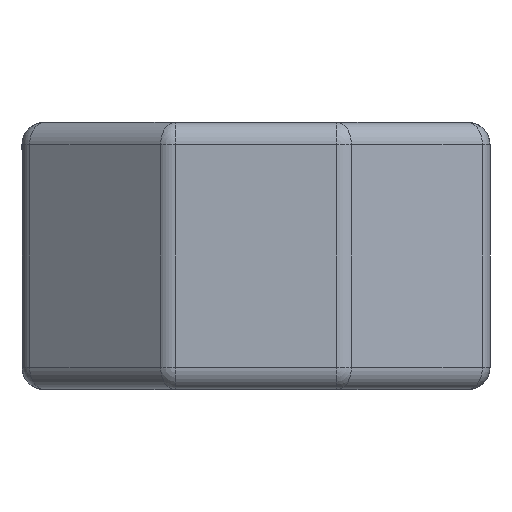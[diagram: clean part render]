
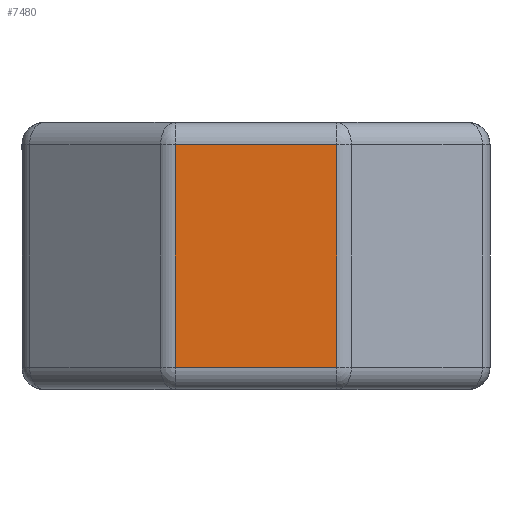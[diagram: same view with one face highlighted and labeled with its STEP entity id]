
A CAD part, front view. The second image highlights one B-rep face of the part: STEP entity #7480.
In plain terms, the highlighted planar face has unit normal (0, -1, 0).
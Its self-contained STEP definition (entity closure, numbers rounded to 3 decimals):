
#117 = VECTOR ( 'NONE', #1830, 1000. ) ;
#417 = DIRECTION ( 'NONE',  ( 0., 0., 1. ) ) ;
#591 = LINE ( 'NONE', #1790, #117 ) ;
#825 = CARTESIAN_POINT ( 'NONE',  ( -1.814, -5.3, -2.5 ) ) ;
#915 = CARTESIAN_POINT ( 'NONE',  ( -2., -5.3, 2.5 ) ) ;
#1197 = CARTESIAN_POINT ( 'NONE',  ( 1.814, -5.3, 3. ) ) ;
#1348 = EDGE_CURVE ( 'NONE', #4276, #6281, #2676, .T. ) ;
#1480 = VERTEX_POINT ( 'NONE', #2480 ) ;
#1569 = DIRECTION ( 'NONE',  ( -1., 0., 0. ) ) ;
#1669 = VERTEX_POINT ( 'NONE', #8087 ) ;
#1790 = CARTESIAN_POINT ( 'NONE',  ( 2., -5.3, -2.5 ) ) ;
#1830 = DIRECTION ( 'NONE',  ( 1., 0., 0. ) ) ;
#2480 = CARTESIAN_POINT ( 'NONE',  ( 1.814, -5.3, 2.5 ) ) ;
#2676 = LINE ( 'NONE', #8629, #8887 ) ;
#4276 = VERTEX_POINT ( 'NONE', #4319 ) ;
#4319 = CARTESIAN_POINT ( 'NONE',  ( -1.814, -5.3, 2.5 ) ) ;
#4399 = DIRECTION ( 'NONE',  ( 0., 0., 1. ) ) ;
#4618 = ORIENTED_EDGE ( 'NONE', *, *, #6780, .T. ) ;
#4811 = EDGE_LOOP ( 'NONE', ( #4618, #7295, #6846, #7346 ) ) ;
#5137 = CARTESIAN_POINT ( 'NONE',  ( -2., -5.3, 3. ) ) ;
#5166 = FACE_OUTER_BOUND ( 'NONE', #4811, .T. ) ;
#5368 = EDGE_CURVE ( 'NONE', #1480, #4276, #6067, .T. ) ;
#5799 = PLANE ( 'NONE',  #8449 ) ;
#5868 = DIRECTION ( 'NONE',  ( 0., 1., 0. ) ) ;
#5945 = VECTOR ( 'NONE', #1569, 1000. ) ;
#6010 = LINE ( 'NONE', #1197, #9882 ) ;
#6067 = LINE ( 'NONE', #915, #5945 ) ;
#6281 = VERTEX_POINT ( 'NONE', #825 ) ;
#6780 = EDGE_CURVE ( 'NONE', #6281, #1669, #591, .T. ) ;
#6846 = ORIENTED_EDGE ( 'NONE', *, *, #5368, .T. ) ;
#7295 = ORIENTED_EDGE ( 'NONE', *, *, #8342, .T. ) ;
#7346 = ORIENTED_EDGE ( 'NONE', *, *, #1348, .T. ) ;
#7480 = ADVANCED_FACE ( 'NONE', ( #5166 ), #5799, .F. ) ;
#7847 = DIRECTION ( 'NONE',  ( 0., 0., -1. ) ) ;
#8087 = CARTESIAN_POINT ( 'NONE',  ( 1.814, -5.3, -2.5 ) ) ;
#8342 = EDGE_CURVE ( 'NONE', #1669, #1480, #6010, .T. ) ;
#8449 = AXIS2_PLACEMENT_3D ( 'NONE', #5137, #5868, #417 ) ;
#8629 = CARTESIAN_POINT ( 'NONE',  ( -1.814, -5.3, 3. ) ) ;
#8887 = VECTOR ( 'NONE', #7847, 1000. ) ;
#9882 = VECTOR ( 'NONE', #4399, 1000. ) ;
